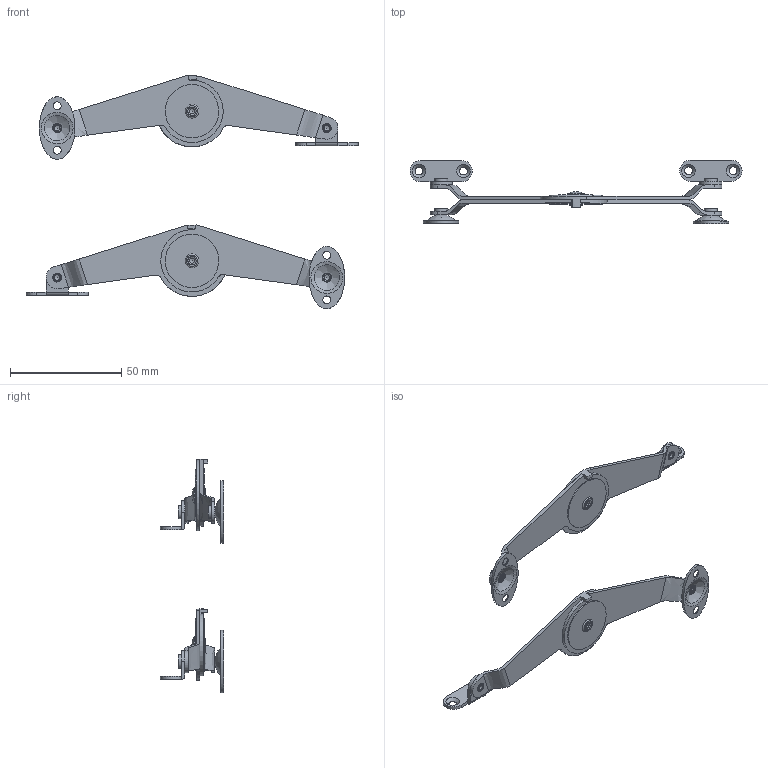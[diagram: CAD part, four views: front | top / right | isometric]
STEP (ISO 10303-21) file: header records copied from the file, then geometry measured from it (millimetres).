
FILE_DESCRIPTION(/* description */ (''),/* implementation_level */ '2;1');
FILE_NAME(/* name */ '\\NAS\db20\SY-1\DR_SY-1.stp',/* time_stamp */ '2018-03-05T18:42:36+09:00',/* author */ ('user'),/* organization */ (''),/* preprocessor_version */ 'ST-DEVELOPER v15.6',/* originating_system */ 'Autodesk Inventor 2015',/* authorisation */ '');
FILE_SCHEMA (('AUTOMOTIVE_DESIGN { 1 0 10303 214 3 1 1 }'));
Length unit declared in the file: millimetre
Products named in the file (11): DR_SY-1-B1; DR_SY-1-B2; DR_SY-1-BR1; DR_SY-1-BR2; DR_SY-1-L; DR_SY-1-B1RIGHT; DR_SY-1-B2RIGHT; DR_SY-1-BR1RIGHT; DR_SY-1-BR2RIGHT; DR_SY-1-LRIGHT; DR_SY-1
Bounding box: 149.06 x 28.4 x 104.85 mm (x, y, z)
Volume: 11692.5 mm3; surface area: 16871.6 mm2
Topology: 8 solids, 8 shells, 184 faces, 444 edges, 310 vertices
Faces by surface type: plane 76, cylinder 58, bspline 18, torus 16, cone 14, sphere 2
Full cylindrical faces by diameter (mm): 2.5 x6, 2.95 x2, 3 x10, 3.5 x8, 5.9 x2, 6 x2, 7.3 x2, 24 x2
Entity records: 6223 total; most frequent: CARTESIAN_POINT 1915, DIRECTION 834, ORIENTED_EDGE 688, EDGE_CURVE 344, AXIS2_PLACEMENT_3D 341, EDGE_LOOP 294, VERTEX_POINT 258, FACE_OUTER_BOUND 184
